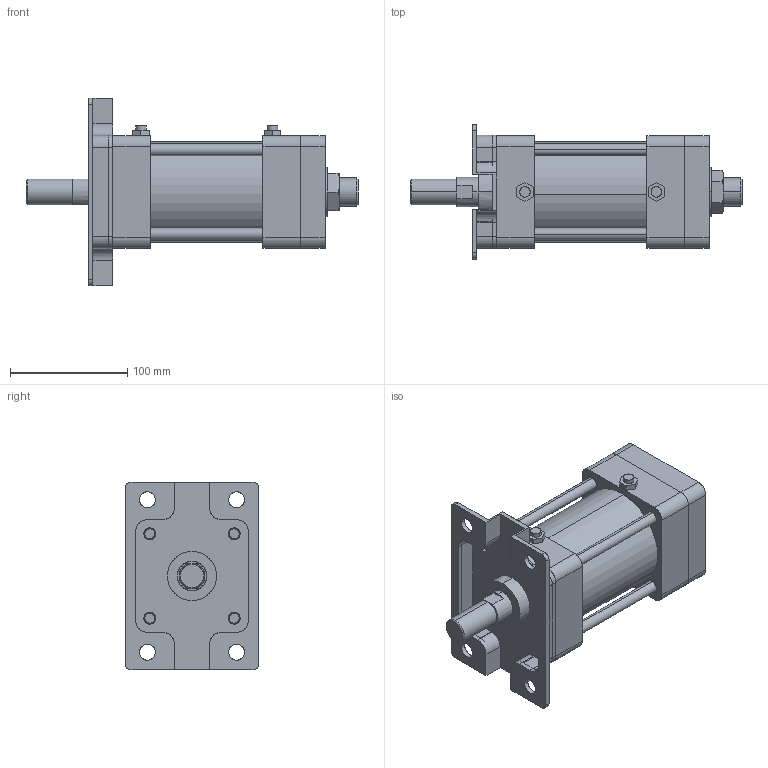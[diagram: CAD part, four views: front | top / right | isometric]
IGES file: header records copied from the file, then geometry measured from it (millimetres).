
Start section: SolidWorks IGES file using analytic representation for surfaces
Global section: file name: C:\Users\Toshiba\Desktop\KGA2-80#-50-A.IGS; native system: SolidWorks 2014; preprocessor: SolidWorks 2014; author: Toshiba; date: 160414.154316; units: millimetre
Bounding box: 283 x 114 x 160 mm (x, y, z)
Surface area: 251527.8 mm2 (no closed solid volume)
Topology: 0 solids, 0 shells, 416 faces, 6892 edges, 6888 vertices
Faces by surface type: bspline 216, revolution 200
